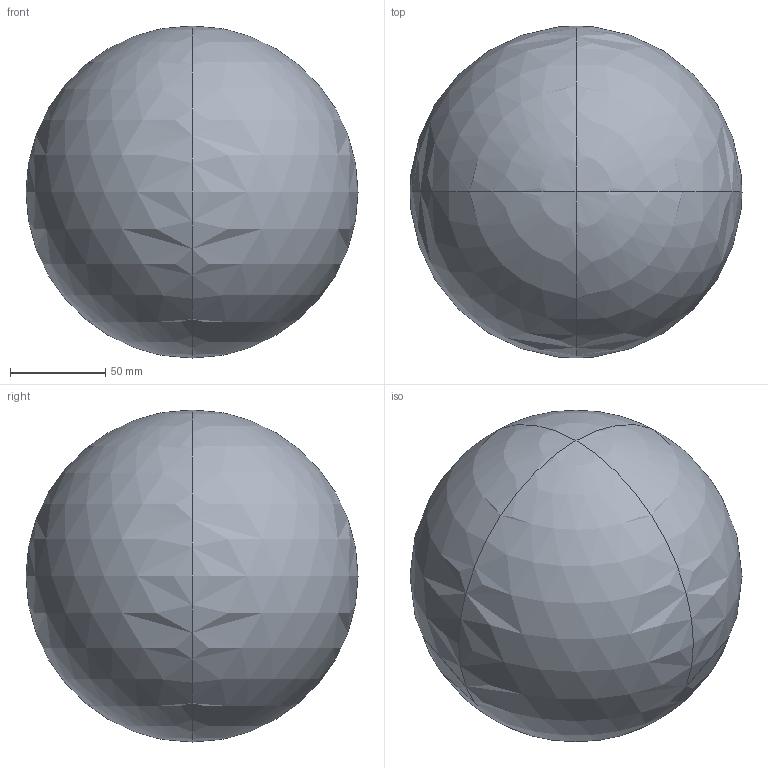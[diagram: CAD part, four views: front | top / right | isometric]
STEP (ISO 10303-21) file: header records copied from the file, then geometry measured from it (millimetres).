
FILE_DESCRIPTION((''),'2;1');
FILE_NAME('C:\Documents and Settings\t8558es\Desktop\temp\2006 Ball.stp','2006-02-07T22:00:51',('t8558es'),(''),'Autodesk Inventor (R) 6.0','Autodesk Inventor (R) 6.0','');
FILE_SCHEMA(('AUTOMOTIVE_DESIGN { 1 0 10303 214 1 1 1 1 }'));
Length unit declared in the file: inch
Products named in the file (1): 2006 Ball
Bounding box: 174.62 x 174.62 x 174.62 mm (x, y, z)
Volume: 2788161.2 mm3; surface area: 95799.4 mm2
Topology: 1 solids, 1 shells, 4 faces, 12 edges, 2 vertices
Faces by surface type: sphere 4
Entity records: 101 total; most frequent: DIRECTION 18, CARTESIAN_POINT 11, AXIS2_PLACEMENT_3D 9, ORIENTED_EDGE 8, SPHERICAL_SURFACE 4, CIRCLE 4, EDGE_CURVE 4, EDGE_LOOP 4
